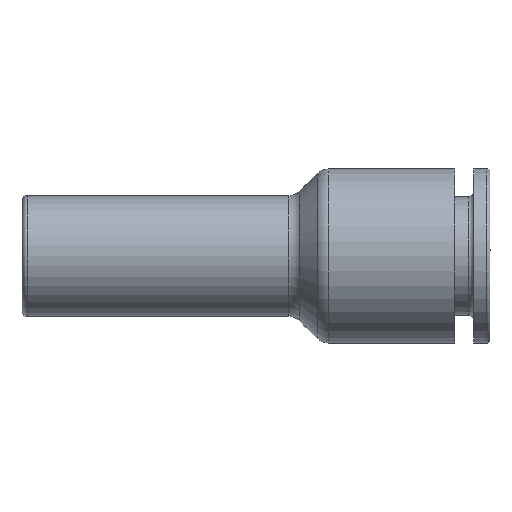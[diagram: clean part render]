
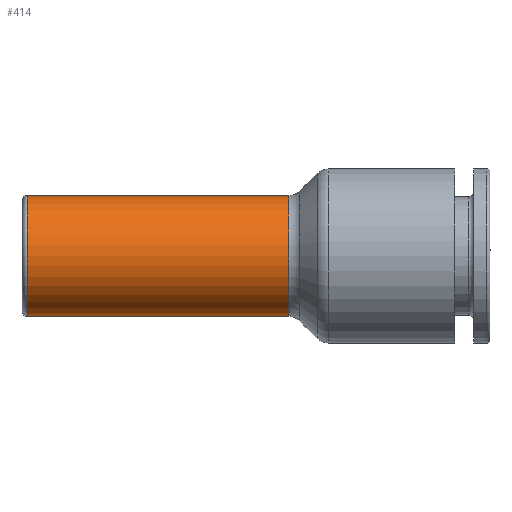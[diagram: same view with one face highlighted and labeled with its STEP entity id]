
A CAD part, top view. The second image highlights one B-rep face of the part: STEP entity #414.
In plain terms, the highlighted cylindrical face has radius 6 mm (diameter 12 mm), a partial arc.
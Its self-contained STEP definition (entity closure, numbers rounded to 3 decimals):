
#414 = ADVANCED_FACE ( 'NONE', ( #1040 ), #1624, .T. ) ;
#465 = EDGE_CURVE ( 'NONE', #2843, #957, #1677, .T. ) ;
#664 = VECTOR ( 'NONE', #5447, 1000. ) ;
#957 = VERTEX_POINT ( 'NONE', #6554 ) ;
#1040 = FACE_OUTER_BOUND ( 'NONE', #2531, .T. ) ;
#1500 = DIRECTION ( 'NONE',  ( 1., 0., 0. ) ) ;
#1624 = CYLINDRICAL_SURFACE ( 'NONE', #3170, 6. ) ;
#1677 = CIRCLE ( 'NONE', #4797, 6. ) ;
#2084 = VERTEX_POINT ( 'NONE', #5885 ) ;
#2156 = LINE ( 'NONE', #2630, #4451 ) ;
#2168 = ORIENTED_EDGE ( 'NONE', *, *, #4359, .T. ) ;
#2222 = DIRECTION ( 'NONE',  ( 0., 1., 0. ) ) ;
#2332 = ORIENTED_EDGE ( 'NONE', *, *, #465, .T. ) ;
#2475 = CIRCLE ( 'NONE', #3403, 6. ) ;
#2520 = VERTEX_POINT ( 'NONE', #5363 ) ;
#2531 = EDGE_LOOP ( 'NONE', ( #6651, #2168, #2332, #4698 ) ) ;
#2630 = CARTESIAN_POINT ( 'NONE',  ( 42.5, 6., 0. ) ) ;
#2752 = CARTESIAN_POINT ( 'NONE',  ( 26.529, 0., 0. ) ) ;
#2843 = VERTEX_POINT ( 'NONE', #6748 ) ;
#3170 = AXIS2_PLACEMENT_3D ( 'NONE', #3787, #6644, #2222 ) ;
#3403 = AXIS2_PLACEMENT_3D ( 'NONE', #6377, #1500, #6894 ) ;
#3749 = DIRECTION ( 'NONE',  ( 1., 0., 0. ) ) ;
#3787 = CARTESIAN_POINT ( 'NONE',  ( 42.5, 0., 0. ) ) ;
#4359 = EDGE_CURVE ( 'NONE', #2084, #2843, #6595, .T. ) ;
#4451 = VECTOR ( 'NONE', #3749, 1000. ) ;
#4698 = ORIENTED_EDGE ( 'NONE', *, *, #6599, .F. ) ;
#4797 = AXIS2_PLACEMENT_3D ( 'NONE', #2752, #4955, #7158 ) ;
#4955 = DIRECTION ( 'NONE',  ( -1., 0., 0. ) ) ;
#5363 = CARTESIAN_POINT ( 'NONE',  ( 0.5, 6., 0. ) ) ;
#5447 = DIRECTION ( 'NONE',  ( 1., 0., 0. ) ) ;
#5817 = EDGE_CURVE ( 'NONE', #2520, #2084, #2475, .T. ) ;
#5885 = CARTESIAN_POINT ( 'NONE',  ( 0.5, -6., 0. ) ) ;
#5994 = CARTESIAN_POINT ( 'NONE',  ( 42.5, -6., 0. ) ) ;
#6377 = CARTESIAN_POINT ( 'NONE',  ( 0.5, 0., 0. ) ) ;
#6554 = CARTESIAN_POINT ( 'NONE',  ( 26.529, 6., 0. ) ) ;
#6595 = LINE ( 'NONE', #5994, #664 ) ;
#6599 = EDGE_CURVE ( 'NONE', #2520, #957, #2156, .T. ) ;
#6644 = DIRECTION ( 'NONE',  ( 1., 0., 0. ) ) ;
#6651 = ORIENTED_EDGE ( 'NONE', *, *, #5817, .T. ) ;
#6748 = CARTESIAN_POINT ( 'NONE',  ( 26.529, -6., 0. ) ) ;
#6894 = DIRECTION ( 'NONE',  ( 0., -1., 0. ) ) ;
#7158 = DIRECTION ( 'NONE',  ( 0., 1., 0. ) ) ;
